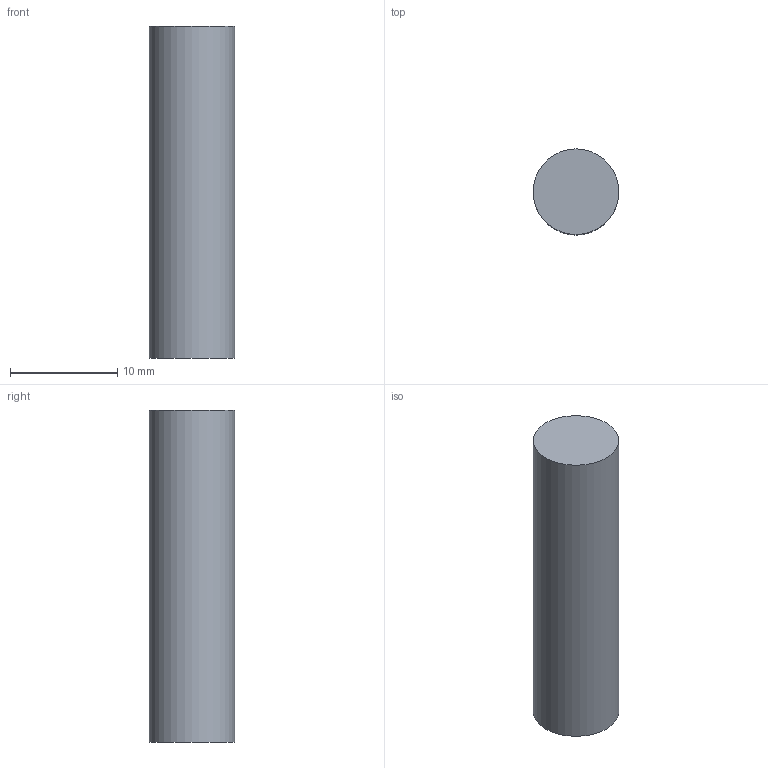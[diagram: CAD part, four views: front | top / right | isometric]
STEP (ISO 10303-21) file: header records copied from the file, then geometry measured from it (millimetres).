
FILE_DESCRIPTION(('Open CASCADE Model'),'2;1');
FILE_NAME('Open CASCADE Shape Model','2026-10-04T01:02:34',('Author'),( 'Open CASCADE'),'Open CASCADE STEP processor 8.0','Open CASCADE 8.0' ,'Unknown');
FILE_SCHEMA(('AUTOMOTIVE_DESIGN { 1 0 10303 214 1 1 1 1 }'));
Length unit declared in the file: millimetre
Products named in the file (1): Open CASCADE STEP translator 8.0 376
Bounding box: 8 x 8 x 31 mm (x, y, z)
Volume: 1558.2 mm3; surface area: 879.6 mm2
Topology: 1 solids, 1 shells, 3 faces, 3 edges, 2 vertices
Faces by surface type: plane 2, cylinder 1
Full cylindrical faces by diameter (mm): 8 x1
Entity records: 108 total; most frequent: DIRECTION 19, CARTESIAN_POINT 15, AXIS2_PLACEMENT_3D 6, ORIENTED_EDGE 6, PCURVE 6, DEFINITIONAL_REPRESENTATION 6, LINE 5, VECTOR 5
